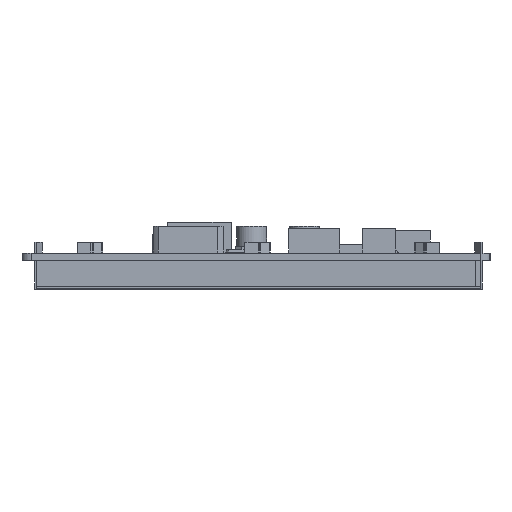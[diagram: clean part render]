
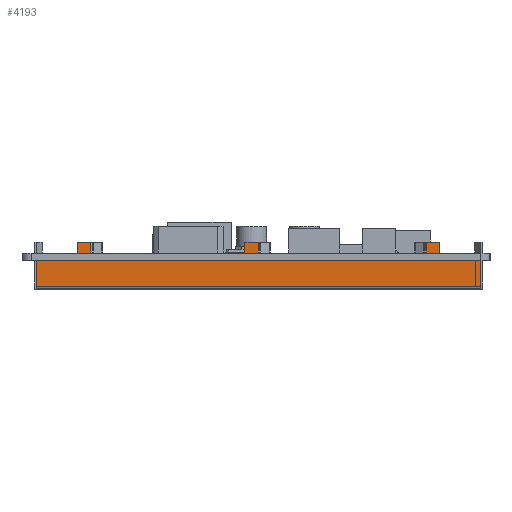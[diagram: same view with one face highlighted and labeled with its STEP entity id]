
A CAD part, left-side view. The second image highlights one B-rep face of the part: STEP entity #4193.
In plain terms, the highlighted planar face has unit normal (-1, 0, 0).
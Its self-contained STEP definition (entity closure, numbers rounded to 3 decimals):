
#4193=ADVANCED_FACE('',(#7105),#5582,.F.);
#5582=PLANE('',#34962);
#7105=FACE_OUTER_BOUND('',#8746,.T.);
#8746=EDGE_LOOP('',(#17035,#17036,#17037,#17038,#17039,#17040,#17041,#17042,
#17043,#17044,#17045,#17046,#17047,#17048,#17049,#17050,#17051,#17052,#17053));
#17035=ORIENTED_EDGE('',*,*,#24806,.T.);
#17036=ORIENTED_EDGE('',*,*,#24817,.T.);
#17037=ORIENTED_EDGE('',*,*,#24818,.F.);
#17038=ORIENTED_EDGE('',*,*,#24819,.T.);
#17039=ORIENTED_EDGE('',*,*,#24820,.F.);
#17040=ORIENTED_EDGE('',*,*,#24804,.T.);
#17041=ORIENTED_EDGE('',*,*,#24821,.T.);
#17042=ORIENTED_EDGE('',*,*,#24822,.F.);
#17043=ORIENTED_EDGE('',*,*,#24823,.F.);
#17044=ORIENTED_EDGE('',*,*,#24824,.T.);
#17045=ORIENTED_EDGE('',*,*,#24812,.T.);
#17046=ORIENTED_EDGE('',*,*,#24825,.T.);
#17047=ORIENTED_EDGE('',*,*,#24826,.F.);
#17048=ORIENTED_EDGE('',*,*,#24827,.F.);
#17049=ORIENTED_EDGE('',*,*,#24828,.T.);
#17050=ORIENTED_EDGE('',*,*,#24816,.T.);
#17051=ORIENTED_EDGE('',*,*,#24829,.F.);
#17052=ORIENTED_EDGE('',*,*,#24830,.F.);
#17053=ORIENTED_EDGE('',*,*,#24831,.T.);
#20483=VERTEX_POINT('',#51626);
#20485=VERTEX_POINT('',#51630);
#20486=VERTEX_POINT('',#51634);
#20488=VERTEX_POINT('',#51637);
#20491=VERTEX_POINT('',#51644);
#20493=VERTEX_POINT('',#51648);
#20495=VERTEX_POINT('',#51653);
#20497=VERTEX_POINT('',#51657);
#20498=VERTEX_POINT('',#51661);
#20499=VERTEX_POINT('',#51663);
#20500=VERTEX_POINT('',#51665);
#20501=VERTEX_POINT('',#51668);
#20502=VERTEX_POINT('',#51670);
#20503=VERTEX_POINT('',#51672);
#20504=VERTEX_POINT('',#51675);
#20505=VERTEX_POINT('',#51677);
#20506=VERTEX_POINT('',#51679);
#20507=VERTEX_POINT('',#51682);
#20508=VERTEX_POINT('',#51684);
#24804=EDGE_CURVE('',#20483,#20485,#28884,.T.);
#24806=EDGE_CURVE('',#20488,#20486,#28886,.T.);
#24812=EDGE_CURVE('',#20491,#20493,#28892,.T.);
#24816=EDGE_CURVE('',#20495,#20497,#28896,.T.);
#24817=EDGE_CURVE('',#20486,#20498,#28897,.T.);
#24818=EDGE_CURVE('',#20499,#20498,#28898,.T.);
#24819=EDGE_CURVE('',#20499,#20500,#28899,.T.);
#24820=EDGE_CURVE('',#20483,#20500,#28900,.T.);
#24821=EDGE_CURVE('',#20485,#20501,#28901,.T.);
#24822=EDGE_CURVE('',#20502,#20501,#28902,.T.);
#24823=EDGE_CURVE('',#20503,#20502,#28903,.T.);
#24824=EDGE_CURVE('',#20503,#20491,#28904,.T.);
#24825=EDGE_CURVE('',#20493,#20504,#28905,.T.);
#24826=EDGE_CURVE('',#20505,#20504,#28906,.T.);
#24827=EDGE_CURVE('',#20506,#20505,#28907,.T.);
#24828=EDGE_CURVE('',#20506,#20495,#28908,.T.);
#24829=EDGE_CURVE('',#20507,#20497,#28909,.T.);
#24830=EDGE_CURVE('',#20508,#20507,#28910,.T.);
#24831=EDGE_CURVE('',#20508,#20488,#28911,.T.);
#28884=LINE('',#51631,#32901);
#28886=LINE('',#51636,#32903);
#28892=LINE('',#51649,#32909);
#28896=LINE('',#51658,#32913);
#28897=LINE('',#51660,#32914);
#28898=LINE('',#51662,#32915);
#28899=LINE('',#51664,#32916);
#28900=LINE('',#51666,#32917);
#28901=LINE('',#51667,#32918);
#28902=LINE('',#51669,#32919);
#28903=LINE('',#51671,#32920);
#28904=LINE('',#51673,#32921);
#28905=LINE('',#51674,#32922);
#28906=LINE('',#51676,#32923);
#28907=LINE('',#51678,#32924);
#28908=LINE('',#51680,#32925);
#28909=LINE('',#51681,#32926);
#28910=LINE('',#51683,#32927);
#28911=LINE('',#51685,#32928);
#32901=VECTOR('',#42327,1.);
#32903=VECTOR('',#42331,1.);
#32909=VECTOR('',#42339,1.);
#32913=VECTOR('',#42345,1.);
#32914=VECTOR('',#42348,1.);
#32915=VECTOR('',#42349,1.);
#32916=VECTOR('',#42350,1.);
#32917=VECTOR('',#42351,1.);
#32918=VECTOR('',#42352,1.);
#32919=VECTOR('',#42353,1.);
#32920=VECTOR('',#42354,1.);
#32921=VECTOR('',#42355,1.);
#32922=VECTOR('',#42356,1.);
#32923=VECTOR('',#42357,1.);
#32924=VECTOR('',#42358,1.);
#32925=VECTOR('',#42359,1.);
#32926=VECTOR('',#42360,1.);
#32927=VECTOR('',#42361,1.);
#32928=VECTOR('',#42362,1.);
#34962=AXIS2_PLACEMENT_3D('',#51686,#42363,#42364);
#42327=DIRECTION('',(0.,1.,0.));
#42331=DIRECTION('',(0.,1.,0.));
#42339=DIRECTION('',(0.,1.,0.));
#42345=DIRECTION('',(0.,1.,0.));
#42348=DIRECTION('',(0.,0.,1.));
#42349=DIRECTION('',(0.,-1.,0.));
#42350=DIRECTION('',(0.,0.,-1.));
#42351=DIRECTION('',(0.,0.,1.));
#42352=DIRECTION('',(0.,0.,1.));
#42353=DIRECTION('',(0.,0.,-1.));
#42354=DIRECTION('',(0.,-1.,0.));
#42355=DIRECTION('',(0.,0.,-1.));
#42356=DIRECTION('',(0.,0.,1.));
#42357=DIRECTION('',(0.,0.,-1.));
#42358=DIRECTION('',(0.,-1.,0.));
#42359=DIRECTION('',(0.,0.,-1.));
#42360=DIRECTION('',(0.,0.,1.));
#42361=DIRECTION('',(0.,1.,0.));
#42362=DIRECTION('',(0.,0.,1.));
#42363=DIRECTION('',(1.,0.,0.));
#42364=DIRECTION('',(0.,-1.,0.));
#51626=CARTESIAN_POINT('',(435.624,-41.014,-1.6));
#51630=CARTESIAN_POINT('',(435.624,-3.188,-1.6));
#51631=CARTESIAN_POINT('',(435.624,-53.245,-1.6));
#51634=CARTESIAN_POINT('',(435.624,-44.038,-1.6));
#51636=CARTESIAN_POINT('',(435.624,-53.245,-1.6));
#51637=CARTESIAN_POINT('',(435.624,-53.245,-1.6));
#51644=CARTESIAN_POINT('',(435.624,-0.18,-1.6));
#51648=CARTESIAN_POINT('',(435.624,34.5,-1.6));
#51649=CARTESIAN_POINT('',(435.624,-53.245,-1.6));
#51653=CARTESIAN_POINT('',(435.624,37.54,-1.6));
#51657=CARTESIAN_POINT('',(435.624,46.775,-1.6));
#51658=CARTESIAN_POINT('',(435.624,-53.245,-1.6));
#51660=CARTESIAN_POINT('',(435.624,-44.038,-1.6));
#51661=CARTESIAN_POINT('',(435.624,-44.038,2.4));
#51662=CARTESIAN_POINT('',(435.624,-41.014,2.4));
#51663=CARTESIAN_POINT('',(435.624,-41.014,2.4));
#51664=CARTESIAN_POINT('',(435.624,-41.014,2.4));
#51665=CARTESIAN_POINT('',(435.624,-41.014,0.));
#51666=CARTESIAN_POINT('',(435.624,-41.014,-1.6));
#51667=CARTESIAN_POINT('',(435.624,-3.188,-1.6));
#51668=CARTESIAN_POINT('',(435.624,-3.188,0.));
#51669=CARTESIAN_POINT('',(435.624,-3.188,2.4));
#51670=CARTESIAN_POINT('',(435.624,-3.188,2.4));
#51671=CARTESIAN_POINT('',(435.624,-0.18,2.4));
#51672=CARTESIAN_POINT('',(435.624,-0.18,2.4));
#51673=CARTESIAN_POINT('',(435.624,-0.18,2.4));
#51674=CARTESIAN_POINT('',(435.624,34.5,-1.6));
#51675=CARTESIAN_POINT('',(435.624,34.5,0.));
#51676=CARTESIAN_POINT('',(435.624,34.5,2.4));
#51677=CARTESIAN_POINT('',(435.624,34.5,2.4));
#51678=CARTESIAN_POINT('',(435.624,37.54,2.4));
#51679=CARTESIAN_POINT('',(435.624,37.54,2.4));
#51680=CARTESIAN_POINT('',(435.624,37.54,2.4));
#51681=CARTESIAN_POINT('',(435.624,46.775,-7.9));
#51682=CARTESIAN_POINT('',(435.624,46.775,-7.9));
#51683=CARTESIAN_POINT('',(435.624,-53.245,-7.9));
#51684=CARTESIAN_POINT('',(435.624,-53.245,-7.9));
#51685=CARTESIAN_POINT('',(435.624,-53.245,-7.9));
#51686=CARTESIAN_POINT('',(435.624,-53.245,-7.9));
